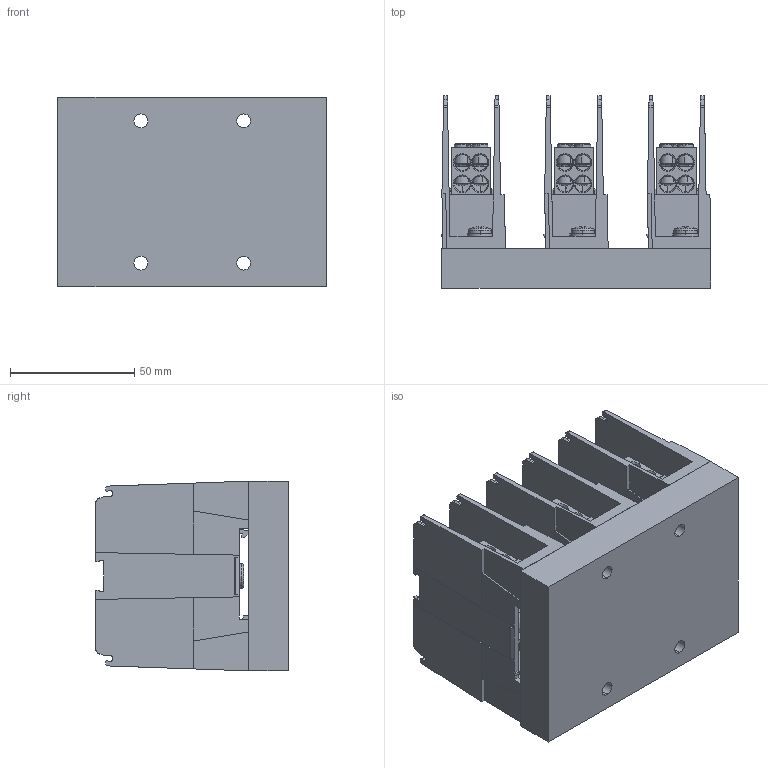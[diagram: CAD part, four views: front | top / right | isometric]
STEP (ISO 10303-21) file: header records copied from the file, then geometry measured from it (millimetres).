
FILE_DESCRIPTION (( 'STEP AP214' ), '1' );
FILE_NAME ('FPB23570.STEP', '2013-04-18T12:15:43', ( 'RBC' ), ( 'RBC' ), 'SwSTEP 2.0', 'SolidWorks 2011', '' );
FILE_SCHEMA (( 'AUTOMOTIVE_DESIGN' ));
Length unit declared in the file: inch
Products named in the file (10): 982142X; 132X576_1 LINE; 97407XX; 9799207; 97016xx_9701602 - Plated; 98125XX_9812546; 9829201; 97289XX_9728910; 9830311; FPB23570
Assembly tree (24 placements, depth 3):
  FPB23570
    132X576_1 LINE  x3
      97016xx_9701602 - Plated
      9829201
      97407XX
      9799207
      98125XX_9812546
    97289XX_9728910  x6
    982142X  x6
    9830311
Bounding box: 108.36 x 77.34 x 76.2 mm (x, y, z)
Volume: 231571.2 mm3; surface area: 129258.4 mm2
Topology: 37 solids, 37 shells, 1861 faces, 5064 edges, 3289 vertices
Faces by surface type: plane 1093, cylinder 481, cone 182, torus 42, sphere 36, bspline 27
Entity records: 21309 total; most frequent: CARTESIAN_POINT 7042, ORIENTED_EDGE 3010, DIRECTION 2696, EDGE_CURVE 1505, LINE 1006, VECTOR 1006, VERTEX_POINT 978, AXIS2_PLACEMENT_3D 845
